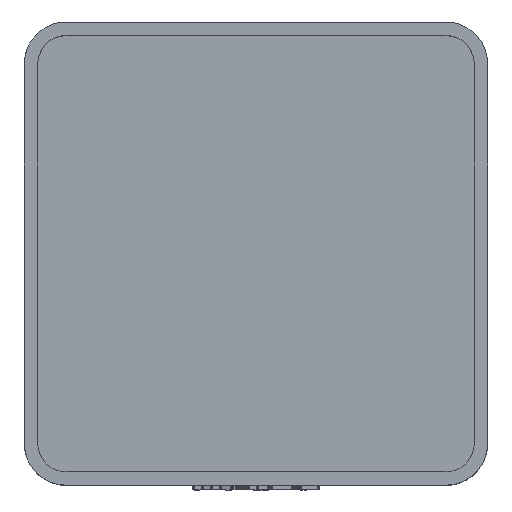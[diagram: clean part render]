
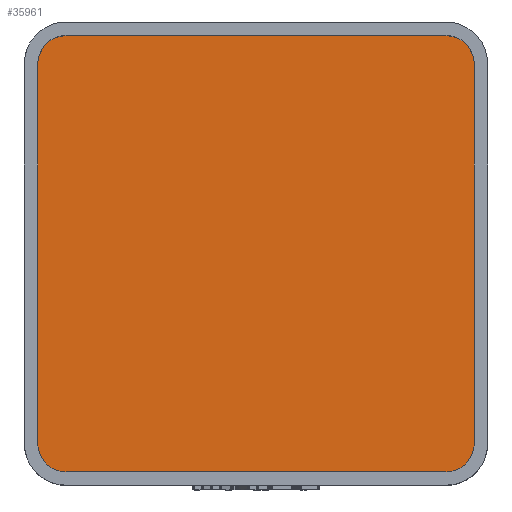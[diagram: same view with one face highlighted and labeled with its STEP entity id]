
A CAD part, top view. The second image highlights one B-rep face of the part: STEP entity #35961.
In plain terms, the highlighted planar face has unit normal (0, 0, 1).
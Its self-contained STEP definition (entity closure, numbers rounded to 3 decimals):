
#1442 = PLANE('',#1443);
#1443 = AXIS2_PLACEMENT_3D('',#1444,#1445,#1446);
#1444 = CARTESIAN_POINT('',(-19.55,-17.,4.75));
#1445 = DIRECTION('',(-1.,0.,0.));
#1446 = DIRECTION('',(0.,1.,0.));
#1474 = CYLINDRICAL_SURFACE('',#1475,2.55);
#1475 = AXIS2_PLACEMENT_3D('',#1476,#1477,#1478);
#1476 = CARTESIAN_POINT('',(-17.,17.,4.75));
#1477 = DIRECTION('',(-0.,-0.,-1.));
#1478 = DIRECTION('',(1.,0.,0.));
#1501 = PLANE('',#1502);
#1502 = AXIS2_PLACEMENT_3D('',#1503,#1504,#1505);
#1503 = CARTESIAN_POINT('',(-17.,19.55,4.75));
#1504 = DIRECTION('',(0.,1.,0.));
#1505 = DIRECTION('',(1.,0.,0.));
#1533 = CYLINDRICAL_SURFACE('',#1534,2.55);
#1534 = AXIS2_PLACEMENT_3D('',#1535,#1536,#1537);
#1535 = CARTESIAN_POINT('',(17.,17.,4.75));
#1536 = DIRECTION('',(-0.,-0.,-1.));
#1537 = DIRECTION('',(1.,0.,0.));
#1560 = PLANE('',#1561);
#1561 = AXIS2_PLACEMENT_3D('',#1562,#1563,#1564);
#1562 = CARTESIAN_POINT('',(19.55,-17.,4.75));
#1563 = DIRECTION('',(-1.,0.,0.));
#1564 = DIRECTION('',(0.,1.,0.));
#1592 = CYLINDRICAL_SURFACE('',#1593,2.55);
#1593 = AXIS2_PLACEMENT_3D('',#1594,#1595,#1596);
#1594 = CARTESIAN_POINT('',(17.,-17.,4.75));
#1595 = DIRECTION('',(-0.,-0.,-1.));
#1596 = DIRECTION('',(1.,0.,0.));
#1619 = PLANE('',#1620);
#1620 = AXIS2_PLACEMENT_3D('',#1621,#1622,#1623);
#1621 = CARTESIAN_POINT('',(-17.,-19.55,4.75));
#1622 = DIRECTION('',(0.,1.,0.));
#1623 = DIRECTION('',(1.,0.,0.));
#1649 = CYLINDRICAL_SURFACE('',#1650,2.55);
#1650 = AXIS2_PLACEMENT_3D('',#1651,#1652,#1653);
#1651 = CARTESIAN_POINT('',(-17.,-17.,4.75));
#1652 = DIRECTION('',(-0.,-0.,-1.));
#1653 = DIRECTION('',(1.,0.,0.));
#13489 = EDGE_CURVE('',#13490,#13492,#13494,.T.);
#13490 = VERTEX_POINT('',#13491);
#13491 = CARTESIAN_POINT('',(-19.55,-17.,4.75));
#13492 = VERTEX_POINT('',#13493);
#13493 = CARTESIAN_POINT('',(-19.55,17.,4.75));
#13494 = SURFACE_CURVE('',#13495,(#13499,#13506),.PCURVE_S1.);
#13495 = LINE('',#13496,#13497);
#13496 = CARTESIAN_POINT('',(-19.55,0.,4.75));
#13497 = VECTOR('',#13498,1.);
#13498 = DIRECTION('',(0.,1.,0.));
#13499 = PCURVE('',#1442,#13500);
#13500 = DEFINITIONAL_REPRESENTATION('',(#13501),#13505);
#13501 = LINE('',#13502,#13503);
#13502 = CARTESIAN_POINT('',(17.,0.));
#13503 = VECTOR('',#13504,1.);
#13504 = DIRECTION('',(1.,0.));
#13505 = ( GEOMETRIC_REPRESENTATION_CONTEXT(2) 
PARAMETRIC_REPRESENTATION_CONTEXT() REPRESENTATION_CONTEXT('2D SPACE',''
  ) );
#13506 = PCURVE('',#13507,#13512);
#13507 = PLANE('',#13508);
#13508 = AXIS2_PLACEMENT_3D('',#13509,#13510,#13511);
#13509 = CARTESIAN_POINT('',(0.,0.,4.75
    ));
#13510 = DIRECTION('',(0.,0.,1.));
#13511 = DIRECTION('',(1.,0.,-0.));
#13512 = DEFINITIONAL_REPRESENTATION('',(#13513),#13517);
#13513 = LINE('',#13514,#13515);
#13514 = CARTESIAN_POINT('',(-19.55,0.));
#13515 = VECTOR('',#13516,1.);
#13516 = DIRECTION('',(0.,1.));
#13517 = ( GEOMETRIC_REPRESENTATION_CONTEXT(2) 
PARAMETRIC_REPRESENTATION_CONTEXT() REPRESENTATION_CONTEXT('2D SPACE',''
  ) );
#13565 = EDGE_CURVE('',#13490,#13566,#13568,.T.);
#13566 = VERTEX_POINT('',#13567);
#13567 = CARTESIAN_POINT('',(-17.,-19.55,4.75));
#13568 = SURFACE_CURVE('',#13569,(#13574,#13581),.PCURVE_S1.);
#13569 = CIRCLE('',#13570,2.55);
#13570 = AXIS2_PLACEMENT_3D('',#13571,#13572,#13573);
#13571 = CARTESIAN_POINT('',(-17.,-17.,4.75));
#13572 = DIRECTION('',(0.,0.,1.));
#13573 = DIRECTION('',(1.,0.,0.));
#13574 = PCURVE('',#1649,#13575);
#13575 = DEFINITIONAL_REPRESENTATION('',(#13576),#13580);
#13576 = LINE('',#13577,#13578);
#13577 = CARTESIAN_POINT('',(-0.,0.));
#13578 = VECTOR('',#13579,1.);
#13579 = DIRECTION('',(-1.,0.));
#13580 = ( GEOMETRIC_REPRESENTATION_CONTEXT(2) 
PARAMETRIC_REPRESENTATION_CONTEXT() REPRESENTATION_CONTEXT('2D SPACE',''
  ) );
#13581 = PCURVE('',#13507,#13582);
#13582 = DEFINITIONAL_REPRESENTATION('',(#13583),#13587);
#13583 = CIRCLE('',#13584,2.55);
#13584 = AXIS2_PLACEMENT_2D('',#13585,#13586);
#13585 = CARTESIAN_POINT('',(-17.,-17.));
#13586 = DIRECTION('',(1.,0.));
#13587 = ( GEOMETRIC_REPRESENTATION_CONTEXT(2) 
PARAMETRIC_REPRESENTATION_CONTEXT() REPRESENTATION_CONTEXT('2D SPACE',''
  ) );
#13615 = EDGE_CURVE('',#13566,#13616,#13618,.T.);
#13616 = VERTEX_POINT('',#13617);
#13617 = CARTESIAN_POINT('',(17.,-19.55,4.75));
#13618 = SURFACE_CURVE('',#13619,(#13623,#13630),.PCURVE_S1.);
#13619 = LINE('',#13620,#13621);
#13620 = CARTESIAN_POINT('',(0.,-19.55,4.75));
#13621 = VECTOR('',#13622,1.);
#13622 = DIRECTION('',(1.,0.,0.));
#13623 = PCURVE('',#1619,#13624);
#13624 = DEFINITIONAL_REPRESENTATION('',(#13625),#13629);
#13625 = LINE('',#13626,#13627);
#13626 = CARTESIAN_POINT('',(17.,0.));
#13627 = VECTOR('',#13628,1.);
#13628 = DIRECTION('',(1.,0.));
#13629 = ( GEOMETRIC_REPRESENTATION_CONTEXT(2) 
PARAMETRIC_REPRESENTATION_CONTEXT() REPRESENTATION_CONTEXT('2D SPACE',''
  ) );
#13630 = PCURVE('',#13507,#13631);
#13631 = DEFINITIONAL_REPRESENTATION('',(#13632),#13636);
#13632 = LINE('',#13633,#13634);
#13633 = CARTESIAN_POINT('',(0.,-19.55));
#13634 = VECTOR('',#13635,1.);
#13635 = DIRECTION('',(1.,0.));
#13636 = ( GEOMETRIC_REPRESENTATION_CONTEXT(2) 
PARAMETRIC_REPRESENTATION_CONTEXT() REPRESENTATION_CONTEXT('2D SPACE',''
  ) );
#13664 = EDGE_CURVE('',#13616,#13665,#13667,.T.);
#13665 = VERTEX_POINT('',#13666);
#13666 = CARTESIAN_POINT('',(19.55,-17.,4.75));
#13667 = SURFACE_CURVE('',#13668,(#13673,#13680),.PCURVE_S1.);
#13668 = CIRCLE('',#13669,2.55);
#13669 = AXIS2_PLACEMENT_3D('',#13670,#13671,#13672);
#13670 = CARTESIAN_POINT('',(17.,-17.,4.75));
#13671 = DIRECTION('',(0.,0.,1.));
#13672 = DIRECTION('',(1.,0.,0.));
#13673 = PCURVE('',#1592,#13674);
#13674 = DEFINITIONAL_REPRESENTATION('',(#13675),#13679);
#13675 = LINE('',#13676,#13677);
#13676 = CARTESIAN_POINT('',(-0.,0.));
#13677 = VECTOR('',#13678,1.);
#13678 = DIRECTION('',(-1.,0.));
#13679 = ( GEOMETRIC_REPRESENTATION_CONTEXT(2) 
PARAMETRIC_REPRESENTATION_CONTEXT() REPRESENTATION_CONTEXT('2D SPACE',''
  ) );
#13680 = PCURVE('',#13507,#13681);
#13681 = DEFINITIONAL_REPRESENTATION('',(#13682),#13686);
#13682 = CIRCLE('',#13683,2.55);
#13683 = AXIS2_PLACEMENT_2D('',#13684,#13685);
#13684 = CARTESIAN_POINT('',(17.,-17.));
#13685 = DIRECTION('',(1.,0.));
#13686 = ( GEOMETRIC_REPRESENTATION_CONTEXT(2) 
PARAMETRIC_REPRESENTATION_CONTEXT() REPRESENTATION_CONTEXT('2D SPACE',''
  ) );
#13714 = EDGE_CURVE('',#13665,#13715,#13717,.T.);
#13715 = VERTEX_POINT('',#13716);
#13716 = CARTESIAN_POINT('',(19.55,17.,4.75));
#13717 = SURFACE_CURVE('',#13718,(#13722,#13729),.PCURVE_S1.);
#13718 = LINE('',#13719,#13720);
#13719 = CARTESIAN_POINT('',(19.55,0.,4.75));
#13720 = VECTOR('',#13721,1.);
#13721 = DIRECTION('',(0.,1.,0.));
#13722 = PCURVE('',#1560,#13723);
#13723 = DEFINITIONAL_REPRESENTATION('',(#13724),#13728);
#13724 = LINE('',#13725,#13726);
#13725 = CARTESIAN_POINT('',(17.,0.));
#13726 = VECTOR('',#13727,1.);
#13727 = DIRECTION('',(1.,0.));
#13728 = ( GEOMETRIC_REPRESENTATION_CONTEXT(2) 
PARAMETRIC_REPRESENTATION_CONTEXT() REPRESENTATION_CONTEXT('2D SPACE',''
  ) );
#13729 = PCURVE('',#13507,#13730);
#13730 = DEFINITIONAL_REPRESENTATION('',(#13731),#13735);
#13731 = LINE('',#13732,#13733);
#13732 = CARTESIAN_POINT('',(19.55,0.));
#13733 = VECTOR('',#13734,1.);
#13734 = DIRECTION('',(0.,1.));
#13735 = ( GEOMETRIC_REPRESENTATION_CONTEXT(2) 
PARAMETRIC_REPRESENTATION_CONTEXT() REPRESENTATION_CONTEXT('2D SPACE',''
  ) );
#13763 = EDGE_CURVE('',#13715,#13764,#13766,.T.);
#13764 = VERTEX_POINT('',#13765);
#13765 = CARTESIAN_POINT('',(17.,19.55,4.75));
#13766 = SURFACE_CURVE('',#13767,(#13772,#13779),.PCURVE_S1.);
#13767 = CIRCLE('',#13768,2.55);
#13768 = AXIS2_PLACEMENT_3D('',#13769,#13770,#13771);
#13769 = CARTESIAN_POINT('',(17.,17.,4.75));
#13770 = DIRECTION('',(0.,0.,1.));
#13771 = DIRECTION('',(1.,0.,0.));
#13772 = PCURVE('',#1533,#13773);
#13773 = DEFINITIONAL_REPRESENTATION('',(#13774),#13778);
#13774 = LINE('',#13775,#13776);
#13775 = CARTESIAN_POINT('',(-0.,0.));
#13776 = VECTOR('',#13777,1.);
#13777 = DIRECTION('',(-1.,0.));
#13778 = ( GEOMETRIC_REPRESENTATION_CONTEXT(2) 
PARAMETRIC_REPRESENTATION_CONTEXT() REPRESENTATION_CONTEXT('2D SPACE',''
  ) );
#13779 = PCURVE('',#13507,#13780);
#13780 = DEFINITIONAL_REPRESENTATION('',(#13781),#13785);
#13781 = CIRCLE('',#13782,2.55);
#13782 = AXIS2_PLACEMENT_2D('',#13783,#13784);
#13783 = CARTESIAN_POINT('',(17.,17.));
#13784 = DIRECTION('',(1.,0.));
#13785 = ( GEOMETRIC_REPRESENTATION_CONTEXT(2) 
PARAMETRIC_REPRESENTATION_CONTEXT() REPRESENTATION_CONTEXT('2D SPACE',''
  ) );
#13813 = EDGE_CURVE('',#13814,#13764,#13816,.T.);
#13814 = VERTEX_POINT('',#13815);
#13815 = CARTESIAN_POINT('',(-17.,19.55,4.75));
#13816 = SURFACE_CURVE('',#13817,(#13821,#13828),.PCURVE_S1.);
#13817 = LINE('',#13818,#13819);
#13818 = CARTESIAN_POINT('',(0.,19.55,4.75));
#13819 = VECTOR('',#13820,1.);
#13820 = DIRECTION('',(1.,0.,0.));
#13821 = PCURVE('',#1501,#13822);
#13822 = DEFINITIONAL_REPRESENTATION('',(#13823),#13827);
#13823 = LINE('',#13824,#13825);
#13824 = CARTESIAN_POINT('',(17.,0.));
#13825 = VECTOR('',#13826,1.);
#13826 = DIRECTION('',(1.,0.));
#13827 = ( GEOMETRIC_REPRESENTATION_CONTEXT(2) 
PARAMETRIC_REPRESENTATION_CONTEXT() REPRESENTATION_CONTEXT('2D SPACE',''
  ) );
#13828 = PCURVE('',#13507,#13829);
#13829 = DEFINITIONAL_REPRESENTATION('',(#13830),#13834);
#13830 = LINE('',#13831,#13832);
#13831 = CARTESIAN_POINT('',(0.,19.55));
#13832 = VECTOR('',#13833,1.);
#13833 = DIRECTION('',(1.,0.));
#13834 = ( GEOMETRIC_REPRESENTATION_CONTEXT(2) 
PARAMETRIC_REPRESENTATION_CONTEXT() REPRESENTATION_CONTEXT('2D SPACE',''
  ) );
#13862 = EDGE_CURVE('',#13814,#13492,#13863,.T.);
#13863 = SURFACE_CURVE('',#13864,(#13869,#13876),.PCURVE_S1.);
#13864 = CIRCLE('',#13865,2.55);
#13865 = AXIS2_PLACEMENT_3D('',#13866,#13867,#13868);
#13866 = CARTESIAN_POINT('',(-17.,17.,4.75));
#13867 = DIRECTION('',(0.,0.,1.));
#13868 = DIRECTION('',(1.,0.,0.));
#13869 = PCURVE('',#1474,#13870);
#13870 = DEFINITIONAL_REPRESENTATION('',(#13871),#13875);
#13871 = LINE('',#13872,#13873);
#13872 = CARTESIAN_POINT('',(-0.,0.));
#13873 = VECTOR('',#13874,1.);
#13874 = DIRECTION('',(-1.,0.));
#13875 = ( GEOMETRIC_REPRESENTATION_CONTEXT(2) 
PARAMETRIC_REPRESENTATION_CONTEXT() REPRESENTATION_CONTEXT('2D SPACE',''
  ) );
#13876 = PCURVE('',#13507,#13877);
#13877 = DEFINITIONAL_REPRESENTATION('',(#13878),#13882);
#13878 = CIRCLE('',#13879,2.55);
#13879 = AXIS2_PLACEMENT_2D('',#13880,#13881);
#13880 = CARTESIAN_POINT('',(-17.,17.));
#13881 = DIRECTION('',(1.,0.));
#13882 = ( GEOMETRIC_REPRESENTATION_CONTEXT(2) 
PARAMETRIC_REPRESENTATION_CONTEXT() REPRESENTATION_CONTEXT('2D SPACE',''
  ) );
#35961 = ADVANCED_FACE('',(#35962),#13507,.T.);
#35962 = FACE_BOUND('',#35963,.T.);
#35963 = EDGE_LOOP('',(#35964,#35965,#35966,#35967,#35968,#35969,#35970,
    #35971));
#35964 = ORIENTED_EDGE('',*,*,#13489,.F.);
#35965 = ORIENTED_EDGE('',*,*,#13565,.T.);
#35966 = ORIENTED_EDGE('',*,*,#13615,.T.);
#35967 = ORIENTED_EDGE('',*,*,#13664,.T.);
#35968 = ORIENTED_EDGE('',*,*,#13714,.T.);
#35969 = ORIENTED_EDGE('',*,*,#13763,.T.);
#35970 = ORIENTED_EDGE('',*,*,#13813,.F.);
#35971 = ORIENTED_EDGE('',*,*,#13862,.T.);
